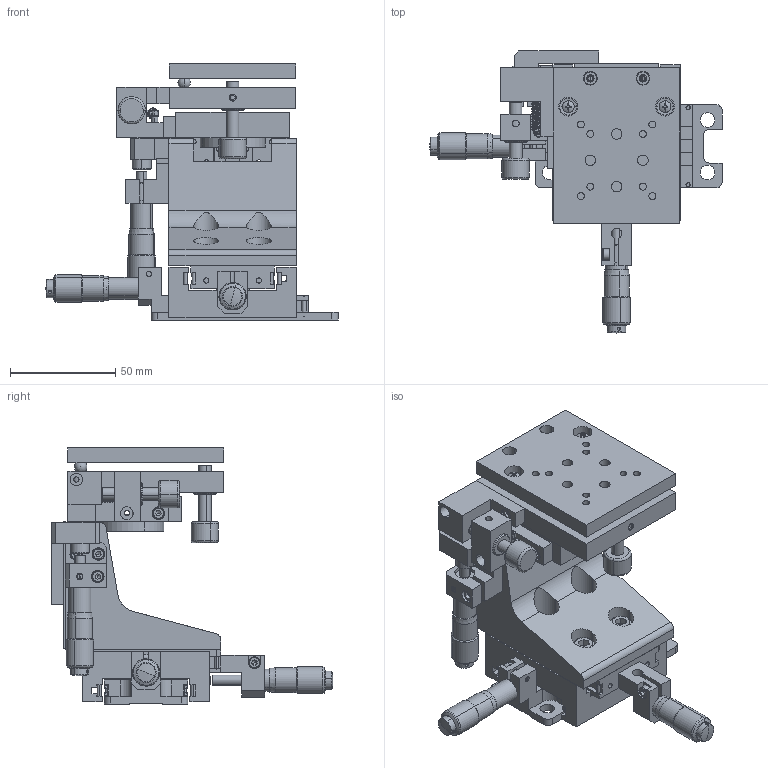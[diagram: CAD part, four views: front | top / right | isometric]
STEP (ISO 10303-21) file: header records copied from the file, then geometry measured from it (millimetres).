
FILE_DESCRIPTION (( 'STEP AP203' ), '1' );
FILE_NAME ('7SWM0501-0五维位移台（右手型）.STEP', '2015-03-31T01:57:18', ( '' ), ( '' ), 'SwSTEP 2.0', 'SolidWorks 2012', '' );
FILE_SCHEMA (( 'CONFIG_CONTROL_DESIGN' ));
Length unit declared in the file: millimetre
Products named in the file (1): 7SWM0501-0五维位移台（右手型）
Bounding box: 138.9 x 133.87 x 121.7 mm (x, y, z)
Surface area: 126644.5 mm2 (no closed solid volume)
Topology: 0 solids, 153 shells, 1122 faces, 3533 edges, 2440 vertices
Faces by surface type: plane 484, cylinder 429, cone 135, torus 52, sphere 20, bspline 2
Entity records: 44227 total; most frequent: CARTESIAN_POINT 11907, DIRECTION 7248, ORIENTED_EDGE 5803, EDGE_CURVE 3497, AXIS2_PLACEMENT_3D 2725, VERTEX_POINT 2434, LINE 1798, VECTOR 1798
